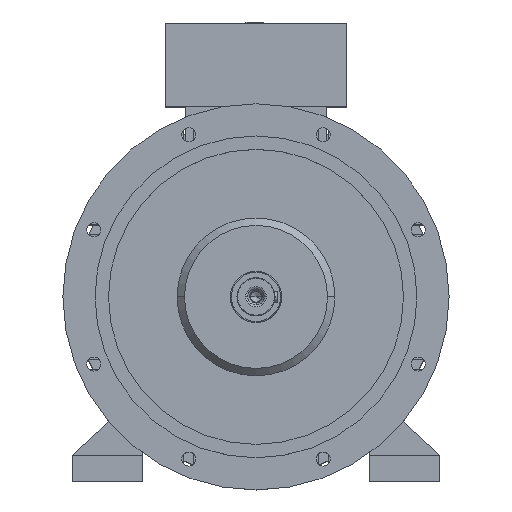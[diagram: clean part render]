
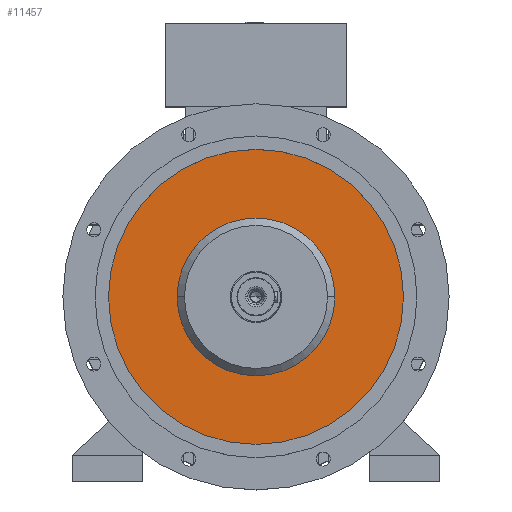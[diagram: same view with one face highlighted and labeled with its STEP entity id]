
A CAD part, top view. The second image highlights one B-rep face of the part: STEP entity #11457.
In plain terms, the highlighted planar face has unit normal (0, 0, 1).
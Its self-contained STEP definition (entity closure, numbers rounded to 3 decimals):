
#667 = DIRECTION ( 'NONE',  ( -1., 0., 0. ) ) ;
#1092 = EDGE_LOOP ( 'NONE', ( #22734, #25722 ) ) ;
#1311 = AXIS2_PLACEMENT_3D ( 'NONE', #4509, #16884, #4411 ) ;
#1435 = EDGE_CURVE ( 'NONE', #9124, #15698, #16261, .T. ) ;
#1473 = FACE_BOUND ( 'NONE', #19826, .T. ) ;
#1554 = DIRECTION ( 'NONE',  ( 0., 0., 1. ) ) ;
#2355 = DIRECTION ( 'NONE',  ( 0., 0., 1. ) ) ;
#3692 = CARTESIAN_POINT ( 'NONE',  ( -252.083, 0., 455.4 ) ) ;
#3711 = ORIENTED_EDGE ( 'NONE', *, *, #21864, .T. ) ;
#4411 = DIRECTION ( 'NONE',  ( 1., 0., 0. ) ) ;
#4458 = CARTESIAN_POINT ( 'NONE',  ( 0., 0., 455.4 ) ) ;
#4509 = CARTESIAN_POINT ( 'NONE',  ( 0., 252.083, 455.4 ) ) ;
#5243 = CIRCLE ( 'NONE', #17435, 134.8 ) ;
#5598 = CARTESIAN_POINT ( 'NONE',  ( 0., 0., 455.4 ) ) ;
#5659 = VERTEX_POINT ( 'NONE', #22895 ) ;
#6202 = AXIS2_PLACEMENT_3D ( 'NONE', #20886, #2355, #25190 ) ;
#6673 = CARTESIAN_POINT ( 'NONE',  ( 134.8, 0., 455.4 ) ) ;
#7860 = CIRCLE ( 'NONE', #15469, 134.8 ) ;
#9124 = VERTEX_POINT ( 'NONE', #22924 ) ;
#10186 = VERTEX_POINT ( 'NONE', #6673 ) ;
#10818 = CARTESIAN_POINT ( 'NONE',  ( 0., 0., 455.4 ) ) ;
#11457 = ADVANCED_FACE ( 'NONE', ( #15945, #1473 ), #12466, .T. ) ;
#12466 = PLANE ( 'NONE',  #1311 ) ;
#13746 = DIRECTION ( 'NONE',  ( -1., 0., 0. ) ) ;
#13925 = DIRECTION ( 'NONE',  ( 0., 0., -1. ) ) ;
#14929 = DIRECTION ( 'NONE',  ( 0., 0., -1. ) ) ;
#15469 = AXIS2_PLACEMENT_3D ( 'NONE', #10818, #14929, #667 ) ;
#15698 = VERTEX_POINT ( 'NONE', #3692 ) ;
#15945 = FACE_OUTER_BOUND ( 'NONE', #1092, .T. ) ;
#15998 = ORIENTED_EDGE ( 'NONE', *, *, #16735, .T. ) ;
#16261 = CIRCLE ( 'NONE', #6202, 252.083 ) ;
#16321 = DIRECTION ( 'NONE',  ( -1., 0., 0. ) ) ;
#16735 = EDGE_CURVE ( 'NONE', #5659, #10186, #5243, .T. ) ;
#16884 = DIRECTION ( 'NONE',  ( 0., 0., 1. ) ) ;
#17435 = AXIS2_PLACEMENT_3D ( 'NONE', #5598, #13925, #13746 ) ;
#18168 = AXIS2_PLACEMENT_3D ( 'NONE', #4458, #1554, #16321 ) ;
#19826 = EDGE_LOOP ( 'NONE', ( #15998, #3711 ) ) ;
#19931 = CIRCLE ( 'NONE', #18168, 252.083 ) ;
#20886 = CARTESIAN_POINT ( 'NONE',  ( 0., 0., 455.4 ) ) ;
#21864 = EDGE_CURVE ( 'NONE', #10186, #5659, #7860, .T. ) ;
#22734 = ORIENTED_EDGE ( 'NONE', *, *, #24363, .T. ) ;
#22895 = CARTESIAN_POINT ( 'NONE',  ( -134.8, 0., 455.4 ) ) ;
#22924 = CARTESIAN_POINT ( 'NONE',  ( 252.083, 0., 455.4 ) ) ;
#24363 = EDGE_CURVE ( 'NONE', #15698, #9124, #19931, .T. ) ;
#25190 = DIRECTION ( 'NONE',  ( -1., 0., 0. ) ) ;
#25722 = ORIENTED_EDGE ( 'NONE', *, *, #1435, .T. ) ;
